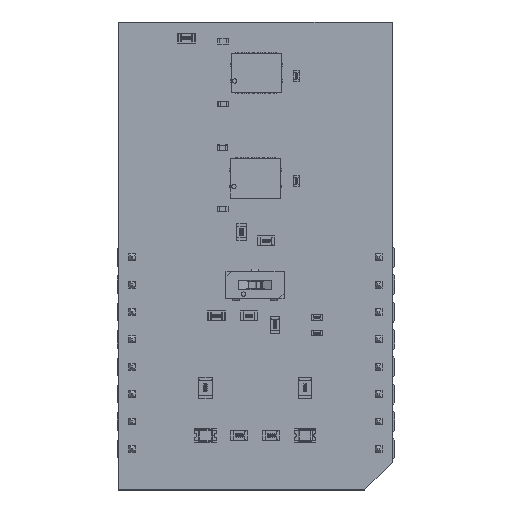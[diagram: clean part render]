
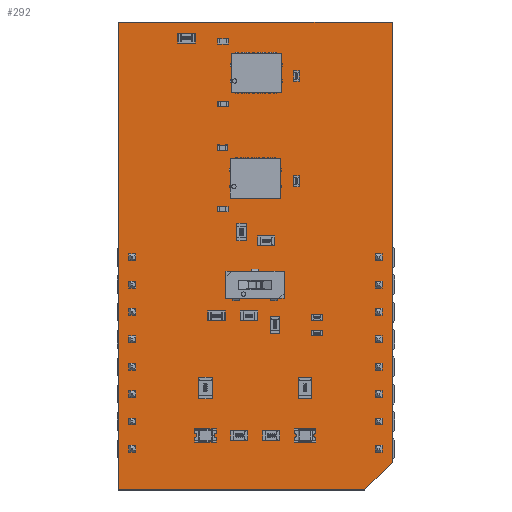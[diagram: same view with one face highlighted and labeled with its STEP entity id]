
A CAD part, top view. The second image highlights one B-rep face of the part: STEP entity #292.
In plain terms, the highlighted planar face has unit normal (0, 0, 1).
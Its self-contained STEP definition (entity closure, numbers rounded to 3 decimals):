
#131 = VERTEX_POINT('',#132);
#132 = CARTESIAN_POINT('',(-1.27,-3.81,0.));
#138 = EDGE_CURVE('',#131,#139,#141,.T.);
#139 = VERTEX_POINT('',#140);
#140 = CARTESIAN_POINT('',(-1.27,39.599,0.));
#141 = LINE('',#142,#143);
#142 = CARTESIAN_POINT('',(-1.27,-3.81,0.));
#143 = VECTOR('',#144,1.);
#144 = DIRECTION('',(0.,1.,0.));
#169 = EDGE_CURVE('',#139,#170,#172,.T.);
#170 = VERTEX_POINT('',#171);
#171 = CARTESIAN_POINT('',(24.13,39.599,0.));
#172 = LINE('',#173,#174);
#173 = CARTESIAN_POINT('',(-1.27,39.599,0.));
#174 = VECTOR('',#175,1.);
#175 = DIRECTION('',(1.,0.,0.));
#200 = EDGE_CURVE('',#170,#201,#203,.T.);
#201 = VERTEX_POINT('',#202);
#202 = CARTESIAN_POINT('',(24.13,-1.27,0.));
#203 = LINE('',#204,#205);
#204 = CARTESIAN_POINT('',(24.13,39.599,0.));
#205 = VECTOR('',#206,1.);
#206 = DIRECTION('',(0.,-1.,0.));
#231 = EDGE_CURVE('',#201,#232,#234,.T.);
#232 = VERTEX_POINT('',#233);
#233 = CARTESIAN_POINT('',(21.59,-3.81,0.));
#234 = LINE('',#235,#236);
#235 = CARTESIAN_POINT('',(24.13,-1.27,0.));
#236 = VECTOR('',#237,1.);
#237 = DIRECTION('',(-0.707,-0.707,0.));
#262 = EDGE_CURVE('',#232,#131,#263,.T.);
#263 = LINE('',#264,#265);
#264 = CARTESIAN_POINT('',(21.59,-3.81,0.));
#265 = VECTOR('',#266,1.);
#266 = DIRECTION('',(-1.,0.,0.));
#292 = ADVANCED_FACE('',(#293),#300,.T.);
#293 = FACE_BOUND('',#294,.F.);
#294 = EDGE_LOOP('',(#295,#296,#297,#298,#299));
#295 = ORIENTED_EDGE('',*,*,#138,.T.);
#296 = ORIENTED_EDGE('',*,*,#169,.T.);
#297 = ORIENTED_EDGE('',*,*,#200,.T.);
#298 = ORIENTED_EDGE('',*,*,#231,.T.);
#299 = ORIENTED_EDGE('',*,*,#262,.T.);
#300 = PLANE('',#301);
#301 = AXIS2_PLACEMENT_3D('',#302,#303,#304);
#302 = CARTESIAN_POINT('',(-1.27,-3.81,0.));
#303 = DIRECTION('',(0.,0.,1.));
#304 = DIRECTION('',(1.,0.,0.));
